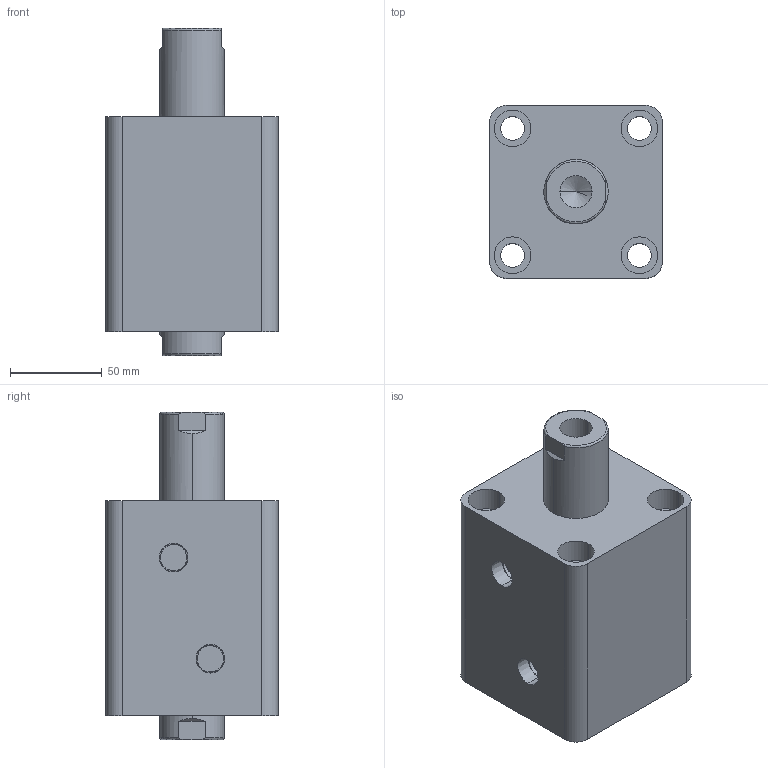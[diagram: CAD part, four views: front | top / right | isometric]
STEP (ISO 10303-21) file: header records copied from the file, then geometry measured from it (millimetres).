
FILE_DESCRIPTION (( 'STEP AP203' ), '1' );
FILE_NAME ('HTB-SW63-35N.STEP', '2019-10-07T10:03:54', ( '微软用户' ), ( '微软中国' ), 'SwSTEP 2.0', 'SolidWorks 2012', '' );
FILE_SCHEMA (( 'CONFIG_CONTROL_DESIGN' ));
Length unit declared in the file: millimetre
Products named in the file (3): HTB-SW63-35N活塞杆; HTB-SW63-35掛极; HTB-SW63-35N
Assembly tree (2 placements, depth 2):
  HTB-SW63-35N
    HTB-SW63-35掛极
    HTB-SW63-35N活塞杆
Bounding box: 94 x 94 x 178 mm (x, y, z)
Volume: 913142.6 mm3; surface area: 130557.8 mm2
Topology: 2 solids, 2 shells, 100 faces, 228 edges, 146 vertices
Faces by surface type: cylinder 48, plane 32, torus 12, cone 8
Entity records: 3253 total; most frequent: CARTESIAN_POINT 611, DIRECTION 542, ORIENTED_EDGE 448, AXIS2_PLACEMENT_3D 229, EDGE_CURVE 224, VERTEX_POINT 146, EDGE_LOOP 128, CIRCLE 124
